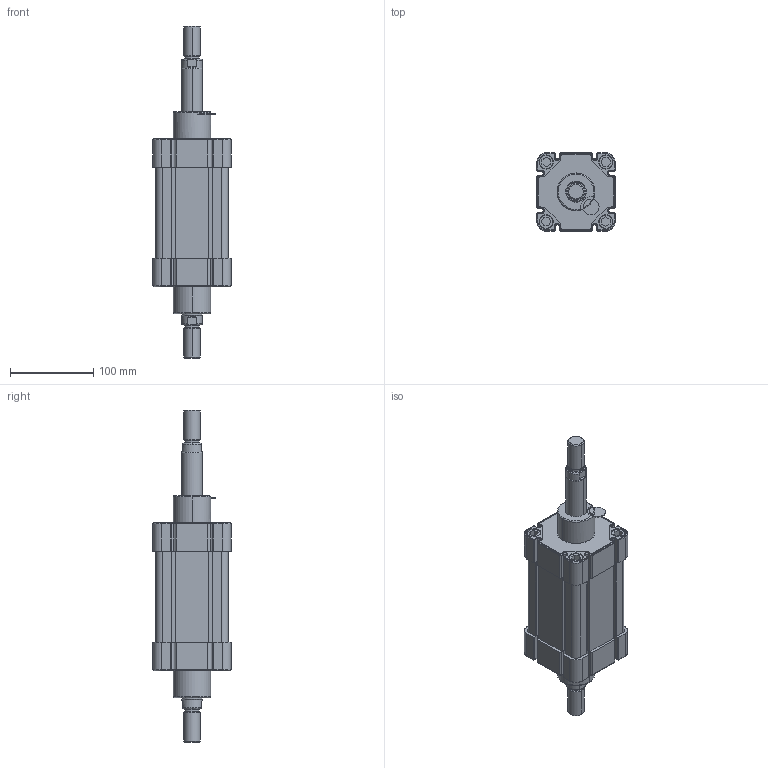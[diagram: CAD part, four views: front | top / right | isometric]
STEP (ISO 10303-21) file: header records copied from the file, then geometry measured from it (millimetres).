
FILE_DESCRIPTION((''),'2;1');
FILE_NAME('N11M40800050.stp','2010-01-06T11:11:56',('B. Petkovic 2010'),('AZ PNEUMATICA S.r.l.'),'Mechanical Desktop 2006','Mechanical Desktop 2006','Via Marco Biagi 6, I-20020 Misinto(MI) Italy, azpneu@tin.it');
FILE_SCHEMA(('CONFIG_CONTROL_DESIGN'));
Length unit declared in the file: millimetre
Products named in the file (2): N11M40630050; CILINDAR
Assembly tree (1 placements, depth 2):
  N11M40630050
    CILINDAR
Bounding box: 94 x 94 x 400 mm (x, y, z)
Volume: 1510896.9 mm3; surface area: 146694.4 mm2
Topology: 1 solids, 1 shells, 718 faces, 1848 edges, 1176 vertices
Faces by surface type: cylinder 325, plane 299, torus 46, bspline 40, cone 8
Entity records: 23885 total; most frequent: CARTESIAN_POINT 5748, DIRECTION 4024, ORIENTED_EDGE 3696, EDGE_CURVE 1848, AXIS2_PLACEMENT_3D 1508, VERTEX_POINT 1176, VECTOR 1008, LINE 1008
